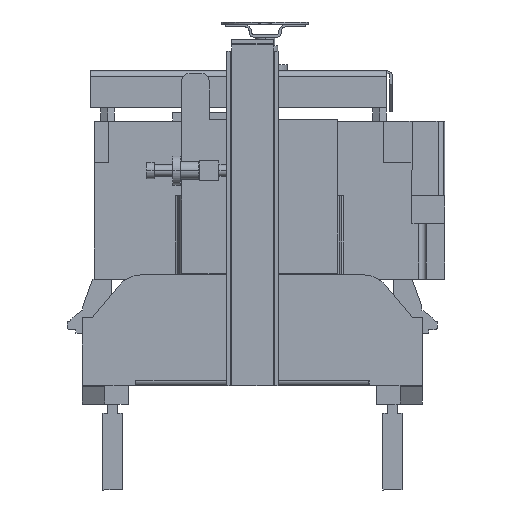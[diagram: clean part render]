
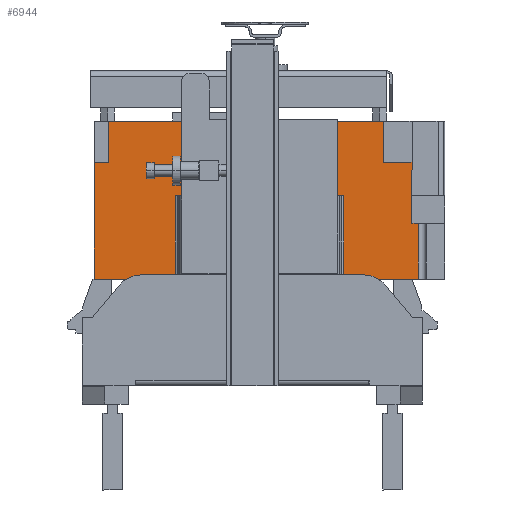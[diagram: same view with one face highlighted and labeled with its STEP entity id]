
A CAD part, left-side view. The second image highlights one B-rep face of the part: STEP entity #6944.
In plain terms, the highlighted planar face has unit normal (-1, 0, 0).
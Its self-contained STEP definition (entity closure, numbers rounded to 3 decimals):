
#145 = VECTOR ( 'NONE', #15256, 1000. ) ;
#209 = ORIENTED_EDGE ( 'NONE', *, *, #17323, .T. ) ;
#247 = CARTESIAN_POINT ( 'NONE',  ( -225., 277.247, 86. ) ) ;
#361 = DIRECTION ( 'NONE',  ( 0., 0., -1. ) ) ;
#514 = PLANE ( 'NONE',  #21220 ) ;
#602 = CARTESIAN_POINT ( 'NONE',  ( -225., 0., 0. ) ) ;
#939 = VECTOR ( 'NONE', #19031, 1000. ) ;
#1257 = VECTOR ( 'NONE', #15857, 1000. ) ;
#1646 = DIRECTION ( 'NONE',  ( 0., 0., -1. ) ) ;
#1656 = ORIENTED_EDGE ( 'NONE', *, *, #16002, .T. ) ;
#1669 = ORIENTED_EDGE ( 'NONE', *, *, #24395, .F. ) ;
#1916 = DIRECTION ( 'NONE',  ( 0., -1., 0. ) ) ;
#2106 = EDGE_CURVE ( 'NONE', #9130, #3386, #15643, .T. ) ;
#2167 = VERTEX_POINT ( 'NONE', #7806 ) ;
#2472 = DIRECTION ( 'NONE',  ( 0., 0., 1. ) ) ;
#2599 = DIRECTION ( 'NONE',  ( 0., 0., -1. ) ) ;
#2738 = CARTESIAN_POINT ( 'NONE',  ( -225., 33.596, 120.35 ) ) ;
#2763 = ORIENTED_EDGE ( 'NONE', *, *, #15705, .F. ) ;
#2964 = ORIENTED_EDGE ( 'NONE', *, *, #11507, .F. ) ;
#3129 = VERTEX_POINT ( 'NONE', #14470 ) ;
#3212 = VERTEX_POINT ( 'NONE', #14810 ) ;
#3359 = CARTESIAN_POINT ( 'NONE',  ( -225., 361., 0. ) ) ;
#3386 = VERTEX_POINT ( 'NONE', #5011 ) ;
#3543 = ORIENTED_EDGE ( 'NONE', *, *, #3691, .F. ) ;
#3551 = VECTOR ( 'NONE', #1646, 1000. ) ;
#3578 = VECTOR ( 'NONE', #19488, 1000. ) ;
#3691 = EDGE_CURVE ( 'NONE', #16516, #3212, #11753, .T. ) ;
#4380 = VECTOR ( 'NONE', #361, 1000. ) ;
#4875 = VERTEX_POINT ( 'NONE', #22173 ) ;
#4898 = DIRECTION ( 'NONE',  ( 0., -1., 0. ) ) ;
#4906 = LINE ( 'NONE', #247, #14759 ) ;
#4987 = LINE ( 'NONE', #20017, #4380 ) ;
#5011 = CARTESIAN_POINT ( 'NONE',  ( -225., 361., 120.35 ) ) ;
#5253 = CARTESIAN_POINT ( 'NONE',  ( -225., 33.542, 120.35 ) ) ;
#5349 = EDGE_CURVE ( 'NONE', #3129, #20587, #4906, .T. ) ;
#5941 = VERTEX_POINT ( 'NONE', #6087 ) ;
#5979 = EDGE_CURVE ( 'NONE', #3129, #9120, #21807, .T. ) ;
#5992 = CARTESIAN_POINT ( 'NONE',  ( -225., 33.542, 162.85 ) ) ;
#6039 = ORIENTED_EDGE ( 'NONE', *, *, #5979, .T. ) ;
#6040 = VERTEX_POINT ( 'NONE', #14356 ) ;
#6087 = CARTESIAN_POINT ( 'NONE',  ( -225., 103.86, 86. ) ) ;
#6273 = EDGE_CURVE ( 'NONE', #6040, #23099, #18987, .T. ) ;
#6558 = VECTOR ( 'NONE', #7982, 1000. ) ;
#6895 = CARTESIAN_POINT ( 'NONE',  ( -225., 0., 0. ) ) ;
#6944 = ADVANCED_FACE ( 'NONE', ( #8161 ), #514, .F. ) ;
#7046 = LINE ( 'NONE', #6895, #22192 ) ;
#7056 = LINE ( 'NONE', #22108, #11702 ) ;
#7324 = VERTEX_POINT ( 'NONE', #25494 ) ;
#7564 = LINE ( 'NONE', #25520, #22057 ) ;
#7628 = ORIENTED_EDGE ( 'NONE', *, *, #21054, .F. ) ;
#7753 = ORIENTED_EDGE ( 'NONE', *, *, #14272, .T. ) ;
#7806 = CARTESIAN_POINT ( 'NONE',  ( -225., 346.2, 120.35 ) ) ;
#7964 = ORIENTED_EDGE ( 'NONE', *, *, #16717, .F. ) ;
#7982 = DIRECTION ( 'NONE',  ( 0., 0.001, -1. ) ) ;
#8014 = DIRECTION ( 'NONE',  ( 0., 0., -1. ) ) ;
#8161 = FACE_OUTER_BOUND ( 'NONE', #13023, .T. ) ;
#8171 = LINE ( 'NONE', #17499, #3578 ) ;
#8239 = CARTESIAN_POINT ( 'NONE',  ( -225., 277.247, 86. ) ) ;
#8767 = ORIENTED_EDGE ( 'NONE', *, *, #5349, .F. ) ;
#8896 = DIRECTION ( 'NONE',  ( 0., 1., 0. ) ) ;
#9112 = VECTOR ( 'NONE', #25032, 1000. ) ;
#9120 = VERTEX_POINT ( 'NONE', #15144 ) ;
#9130 = VERTEX_POINT ( 'NONE', #3359 ) ;
#9224 = VECTOR ( 'NONE', #22136, 1000. ) ;
#9950 = CARTESIAN_POINT ( 'NONE',  ( -225., 63.042, 120.35 ) ) ;
#10460 = CARTESIAN_POINT ( 'NONE',  ( -225., 153.728, 86. ) ) ;
#11304 = VECTOR ( 'NONE', #12128, 1000. ) ;
#11507 = EDGE_CURVE ( 'NONE', #12594, #7324, #15257, .T. ) ;
#11702 = VECTOR ( 'NONE', #2472, 1000. ) ;
#11753 = LINE ( 'NONE', #13791, #1257 ) ;
#12128 = DIRECTION ( 'NONE',  ( 0., -1., 0. ) ) ;
#12594 = VERTEX_POINT ( 'NONE', #24170 ) ;
#12606 = EDGE_CURVE ( 'NONE', #6040, #5941, #24143, .T. ) ;
#12731 = CARTESIAN_POINT ( 'NONE',  ( -225., 361., 120.35 ) ) ;
#13023 = EDGE_LOOP ( 'NONE', ( #209, #19064, #2964, #2763, #7964, #20849, #7753, #3543, #18817, #7628, #13952, #1669, #8767, #6039, #1656, #21091, #23069, #15854 ) ) ;
#13230 = CARTESIAN_POINT ( 'NONE',  ( -225., 153.728, 86. ) ) ;
#13248 = LINE ( 'NONE', #18152, #9224 ) ;
#13453 = CARTESIAN_POINT ( 'NONE',  ( -225., 227.378, 86. ) ) ;
#13791 = CARTESIAN_POINT ( 'NONE',  ( -225., 361., 162.85 ) ) ;
#13952 = ORIENTED_EDGE ( 'NONE', *, *, #2106, .F. ) ;
#14272 = EDGE_CURVE ( 'NONE', #16735, #3212, #7056, .T. ) ;
#14356 = CARTESIAN_POINT ( 'NONE',  ( -225., 153.728, 86. ) ) ;
#14381 = DIRECTION ( 'NONE',  ( 1., 0., 0. ) ) ;
#14470 = CARTESIAN_POINT ( 'NONE',  ( -225., 277.247, 86. ) ) ;
#14686 = VERTEX_POINT ( 'NONE', #20144 ) ;
#14693 = DIRECTION ( 'NONE',  ( 0., 0., 1. ) ) ;
#14759 = VECTOR ( 'NONE', #8014, 1000. ) ;
#14810 = CARTESIAN_POINT ( 'NONE',  ( -225., 63.042, 162.85 ) ) ;
#14926 = LINE ( 'NONE', #12731, #18938 ) ;
#15144 = CARTESIAN_POINT ( 'NONE',  ( -225., 227.378, 86. ) ) ;
#15256 = DIRECTION ( 'NONE',  ( 0., 0., -1. ) ) ;
#15257 = LINE ( 'NONE', #25070, #145 ) ;
#15643 = LINE ( 'NONE', #21438, #25519 ) ;
#15654 = EDGE_CURVE ( 'NONE', #7324, #14686, #8171, .T. ) ;
#15705 = EDGE_CURVE ( 'NONE', #4875, #12594, #7564, .T. ) ;
#15772 = LINE ( 'NONE', #24538, #25009 ) ;
#15854 = ORIENTED_EDGE ( 'NONE', *, *, #12606, .T. ) ;
#15857 = DIRECTION ( 'NONE',  ( 0., -1., 0. ) ) ;
#16002 = EDGE_CURVE ( 'NONE', #9120, #17044, #23888, .T. ) ;
#16516 = VERTEX_POINT ( 'NONE', #19189 ) ;
#16717 = EDGE_CURVE ( 'NONE', #16842, #4875, #22301, .T. ) ;
#16735 = VERTEX_POINT ( 'NONE', #9950 ) ;
#16842 = VERTEX_POINT ( 'NONE', #2738 ) ;
#17044 = VERTEX_POINT ( 'NONE', #23165 ) ;
#17162 = CARTESIAN_POINT ( 'NONE',  ( -225., 277.247, 0. ) ) ;
#17323 = EDGE_CURVE ( 'NONE', #5941, #14686, #4987, .T. ) ;
#17499 = CARTESIAN_POINT ( 'NONE',  ( -225., 0., 0. ) ) ;
#18152 = CARTESIAN_POINT ( 'NONE',  ( -225., 0., 0. ) ) ;
#18378 = DIRECTION ( 'NONE',  ( 0., -1., 0. ) ) ;
#18669 = EDGE_CURVE ( 'NONE', #23099, #17044, #7046, .T. ) ;
#18817 = ORIENTED_EDGE ( 'NONE', *, *, #22864, .F. ) ;
#18882 = VECTOR ( 'NONE', #18378, 1000. ) ;
#18938 = VECTOR ( 'NONE', #4898, 1000. ) ;
#18987 = LINE ( 'NONE', #13230, #9112 ) ;
#19031 = DIRECTION ( 'NONE',  ( 0., -1., 0. ) ) ;
#19064 = ORIENTED_EDGE ( 'NONE', *, *, #15654, .F. ) ;
#19189 = CARTESIAN_POINT ( 'NONE',  ( -225., 346.2, 162.85 ) ) ;
#19435 = CARTESIAN_POINT ( 'NONE',  ( -225., 153.728, 0. ) ) ;
#19437 = DIRECTION ( 'NONE',  ( 0., 0., 1. ) ) ;
#19488 = DIRECTION ( 'NONE',  ( 0., 1., 0. ) ) ;
#20017 = CARTESIAN_POINT ( 'NONE',  ( -225., 103.86, 86. ) ) ;
#20144 = CARTESIAN_POINT ( 'NONE',  ( -225., 103.86, 0. ) ) ;
#20587 = VERTEX_POINT ( 'NONE', #17162 ) ;
#20849 = ORIENTED_EDGE ( 'NONE', *, *, #24059, .F. ) ;
#21054 = EDGE_CURVE ( 'NONE', #3386, #2167, #14926, .T. ) ;
#21091 = ORIENTED_EDGE ( 'NONE', *, *, #18669, .F. ) ;
#21220 = AXIS2_PLACEMENT_3D ( 'NONE', #602, #14381, #2599 ) ;
#21438 = CARTESIAN_POINT ( 'NONE',  ( -225., 361., 0. ) ) ;
#21807 = LINE ( 'NONE', #8239, #11304 ) ;
#21918 = LINE ( 'NONE', #5253, #939 ) ;
#22057 = VECTOR ( 'NONE', #1916, 1000. ) ;
#22108 = CARTESIAN_POINT ( 'NONE',  ( -225., 63.042, 120.35 ) ) ;
#22136 = DIRECTION ( 'NONE',  ( 0., 1., 0. ) ) ;
#22173 = CARTESIAN_POINT ( 'NONE',  ( -225., 33.677, 57.45 ) ) ;
#22192 = VECTOR ( 'NONE', #8896, 1000. ) ;
#22301 = LINE ( 'NONE', #5992, #6558 ) ;
#22864 = EDGE_CURVE ( 'NONE', #2167, #16516, #15772, .T. ) ;
#23069 = ORIENTED_EDGE ( 'NONE', *, *, #6273, .F. ) ;
#23099 = VERTEX_POINT ( 'NONE', #19435 ) ;
#23165 = CARTESIAN_POINT ( 'NONE',  ( -225., 227.378, 0. ) ) ;
#23888 = LINE ( 'NONE', #13453, #3551 ) ;
#24059 = EDGE_CURVE ( 'NONE', #16735, #16842, #21918, .T. ) ;
#24143 = LINE ( 'NONE', #10460, #18882 ) ;
#24170 = CARTESIAN_POINT ( 'NONE',  ( -225., 27.25, 57.45 ) ) ;
#24395 = EDGE_CURVE ( 'NONE', #20587, #9130, #13248, .T. ) ;
#24538 = CARTESIAN_POINT ( 'NONE',  ( -225., 346.2, 120.35 ) ) ;
#25009 = VECTOR ( 'NONE', #14693, 1000. ) ;
#25032 = DIRECTION ( 'NONE',  ( 0., 0., -1. ) ) ;
#25070 = CARTESIAN_POINT ( 'NONE',  ( -225., 27.25, 70.959 ) ) ;
#25494 = CARTESIAN_POINT ( 'NONE',  ( -225., 27.25, 0. ) ) ;
#25519 = VECTOR ( 'NONE', #19437, 1000. ) ;
#25520 = CARTESIAN_POINT ( 'NONE',  ( -225., 33.677, 57.45 ) ) ;
